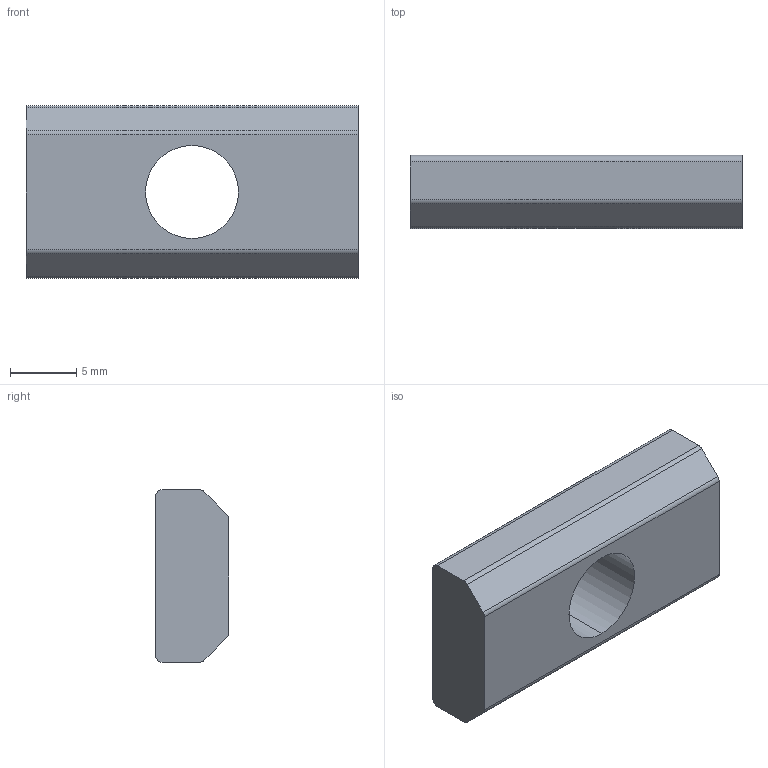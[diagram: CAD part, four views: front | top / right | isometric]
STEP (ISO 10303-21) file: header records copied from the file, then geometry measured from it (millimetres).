
FILE_DESCRIPTION (( 'STEP AP214' ), '1' );
FILE_NAME ('1.2025 Neliömutteri M8 L.STEP', '2025-09-05T10:15:15', ( '' ), ( '' ), 'SwSTEP 2.0', 'SolidWorks 2025', '' );
FILE_SCHEMA (( 'AUTOMOTIVE_DESIGN' ));
Length unit declared in the file: millimetre
Products named in the file (1): 1.2025 Neliömutteri M8 L
Bounding box: 25 x 5.5 x 13 mm (x, y, z)
Volume: 1470.8 mm3; surface area: 1027.5 mm2
Topology: 1 solids, 1 shells, 18 faces, 46 edges, 30 vertices
Faces by surface type: cylinder 8, plane 8, cone 2
Entity records: 579 total; most frequent: DIRECTION 102, CARTESIAN_POINT 95, ORIENTED_EDGE 92, EDGE_CURVE 46, AXIS2_PLACEMENT_3D 37, VERTEX_POINT 30, VECTOR 28, LINE 28
